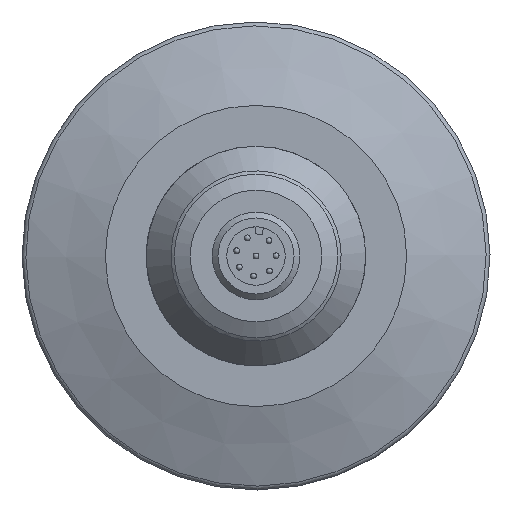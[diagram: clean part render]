
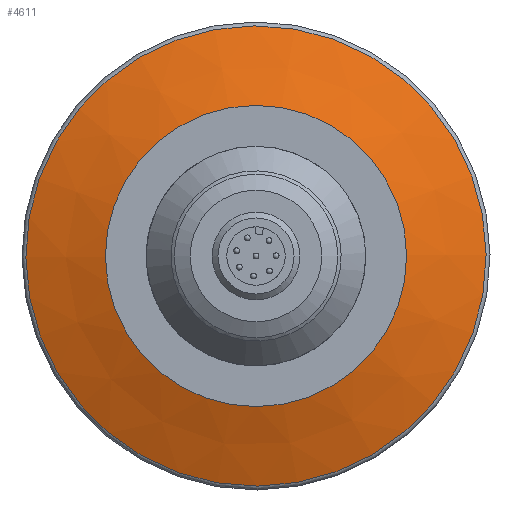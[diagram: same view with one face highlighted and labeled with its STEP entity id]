
A CAD part, front view. The second image highlights one B-rep face of the part: STEP entity #4611.
In plain terms, the highlighted conical face has half-angle 70 degrees and reference radius 31.474 mm.
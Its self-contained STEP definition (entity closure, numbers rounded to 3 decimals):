
#347=CONICAL_SURFACE('',#4807,31.474,1.222);
#1415=ORIENTED_EDGE('',*,*,#1962,.F.);
#1416=ORIENTED_EDGE('',*,*,#1963,.T.);
#1962=EDGE_CURVE('',#2306,#2306,#2418,.T.);
#1963=EDGE_CURVE('',#2307,#2307,#2419,.T.);
#2306=VERTEX_POINT('',#10034);
#2307=VERTEX_POINT('',#10037);
#2418=CIRCLE('',#4806,31.474);
#2419=CIRCLE('',#4808,20.598);
#2671=EDGE_LOOP('',(#1415));
#2672=EDGE_LOOP('',(#1416));
#2938=FACE_BOUND('',#2671,.T.);
#2939=FACE_BOUND('',#2672,.T.);
#4611=ADVANCED_FACE('',(#2938,#2939),#347,.T.);
#4806=AXIS2_PLACEMENT_3D('',#10033,#5293,#5294);
#4807=AXIS2_PLACEMENT_3D('',#10035,#5295,#5296);
#4808=AXIS2_PLACEMENT_3D('',#10036,#5297,#5298);
#5293=DIRECTION('',(0.,1.,0.));
#5294=DIRECTION('',(-0.762,0.,-0.647));
#5295=DIRECTION('',(0.,1.,0.));
#5296=DIRECTION('',(-0.762,0.,-0.647));
#5297=DIRECTION('',(0.,1.,0.));
#5298=DIRECTION('',(-0.762,0.,-0.647));
#10033=CARTESIAN_POINT('',(0.,3.865,0.));
#10034=CARTESIAN_POINT('',(-23.99,3.865,-20.373));
#10035=CARTESIAN_POINT('',(0.,3.865,0.));
#10036=CARTESIAN_POINT('',(0.,-0.094,0.));
#10037=CARTESIAN_POINT('',(-15.7,-0.094,-13.333));
